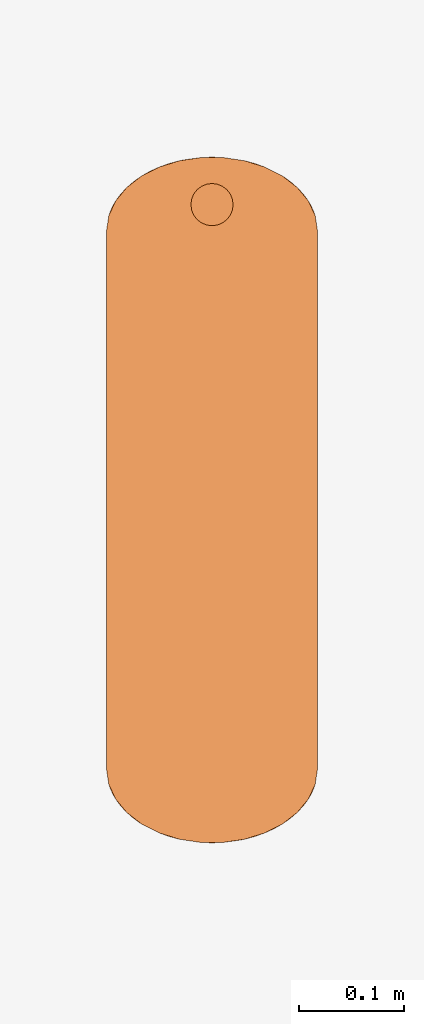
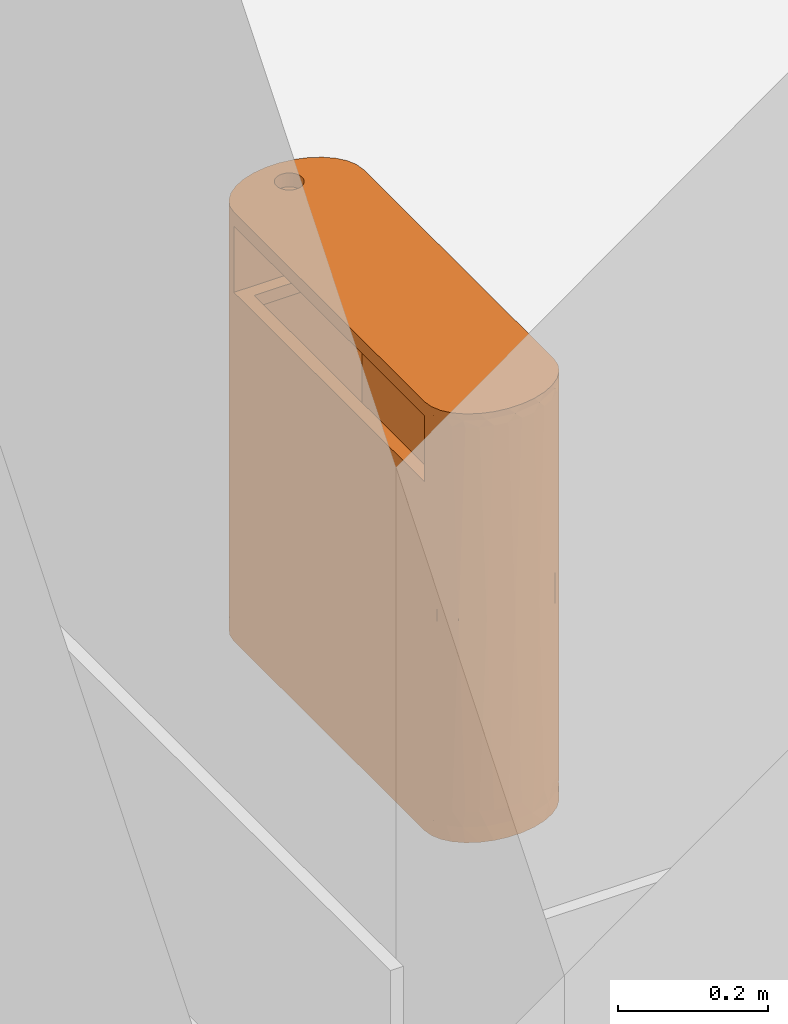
# One storey, part 77 of 77: 1 proxy.
"""IFC2X3 building model written with IfcOpenShell, lengths in millimetres."""

from ifc_helpers import new_model, entity, si_unit, converted_unit, derived_unit, direction, frame, origin, place, context, subcontext, project, spatial, faceted_brep, source, transform, mapped, material, material_list, type_object, type_shapes, element, save


model = new_model("IFC2X3")

# Units and contexts
model_context = context("Model", 3, precision=0.01, world=origin(), true_north=direction((6.12303176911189e-17, 1.0)))
body_context = subcontext(model_context, "Body", "Model", "MODEL_VIEW")
ifc_project = project(units=[si_unit("LENGTHUNIT", "METRE", prefix="MILLI"), si_unit("AREAUNIT", "SQUARE_METRE"), si_unit("VOLUMEUNIT", "CUBIC_METRE"), converted_unit("PLANEANGLEUNIT", "DEGREE", entity("IfcRatioMeasure", 0.0174532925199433), si_unit("PLANEANGLEUNIT", "RADIAN"), dimensions=[0, 0, 0, 0, 0, 0, 0]), si_unit("MASSUNIT", "GRAM", prefix="KILO"), derived_unit("MASSDENSITYUNIT", [(si_unit("MASSUNIT", "GRAM", prefix="KILO"), 1), (si_unit("LENGTHUNIT", "METRE"), -3)]), si_unit("TIMEUNIT", "SECOND"), si_unit("FREQUENCYUNIT", "HERTZ"), si_unit("THERMODYNAMICTEMPERATUREUNIT", "DEGREE_CELSIUS"), derived_unit("THERMALTRANSMITTANCEUNIT", [(si_unit("MASSUNIT", "GRAM", prefix="KILO"), 1), (si_unit("THERMODYNAMICTEMPERATUREUNIT", "KELVIN"), -1), (si_unit("TIMEUNIT", "SECOND"), -3)]), derived_unit("VOLUMETRICFLOWRATEUNIT", [(si_unit("LENGTHUNIT", "METRE"), 3), (si_unit("TIMEUNIT", "SECOND"), -1)]), si_unit("ELECTRICCURRENTUNIT", "AMPERE"), si_unit("ELECTRICVOLTAGEUNIT", "VOLT"), si_unit("POWERUNIT", "WATT"), si_unit("FORCEUNIT", "NEWTON", prefix="KILO"), si_unit("ILLUMINANCEUNIT", "LUX"), si_unit("LUMINOUSFLUXUNIT", "LUMEN"), si_unit("LUMINOUSINTENSITYUNIT", "CANDELA"), derived_unit("USERDEFINED", [(si_unit("MASSUNIT", "GRAM", prefix="KILO"), -1), (si_unit("LENGTHUNIT", "METRE"), -2), (si_unit("TIMEUNIT", "SECOND"), 3), (si_unit("LUMINOUSFLUXUNIT", "LUMEN"), 1)]), derived_unit("LINEARVELOCITYUNIT", [(si_unit("LENGTHUNIT", "METRE"), 1), (si_unit("TIMEUNIT", "SECOND"), -1)]), si_unit("PRESSUREUNIT", "PASCAL"), derived_unit("USERDEFINED", [(si_unit("LENGTHUNIT", "METRE"), -2), (si_unit("MASSUNIT", "GRAM", prefix="KILO"), 1), (si_unit("TIMEUNIT", "SECOND"), -2)])], contexts=[model_context])

# Site, building, storey
site_placement = place(None, origin())
site = spatial("IfcSite", under=ifc_project, at=site_placement, Name="Default", CompositionType="ELEMENT")
building_placement = place(site_placement, origin())
building = spatial("IfcBuilding", under=site, at=building_placement, CompositionType="ELEMENT")
storey_placement = place(building_placement, origin())
storey = spatial("IfcBuildingStorey", under=building, at=storey_placement, Name="1. KORRUS", CompositionType="ELEMENT", Elevation=0.0)

# Proxy
ifc_material_1 = material(Name="Default New Material_must-al-komposiitplaat")
ifc_material_2 = material(Name="roostevaba teras")
ifc_material_list_1 = material_list([ifc_material_1, ifc_material_2])
ifc_material_list_2 = material_list([ifc_material_1, ifc_material_2])
building_element_proxy_type = type_object("IfcBuildingElementProxyType", Name="prygikast_look30", PredefinedType="NOTDEFINED", material=ifc_material_list_2)
shared_shape = source(origin(), body_context, "Body", "Brep", [
    faceted_brep([(580.0, 0.0, 50.0), (580.0, 200.0, 50.0), (70.0, 200.0, 50.0), (70.0, 0.0, 50.0), (3.42604385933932, 130.901699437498, 0.0), (9.37822173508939, 150.0, 0.0), (17.9798622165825, 166.913060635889, 0.0), (28.855032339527, 180.901699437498, 0.0), (41.5284349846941, 191.354545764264, 0.0), (55.4461816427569, 197.814760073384, 0.0), (70.0, 200.0, 0.0), (580.0, 200.0, 0.0), (594.553818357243, 197.814760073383, 0.0), (608.471565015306, 191.354545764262, 0.0), (621.144967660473, 180.901699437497, 0.0), (632.020137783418, 166.913060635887, 0.0), (640.621778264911, 150.0, 0.0), (646.573956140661, 130.901699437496, 0.0), (649.616532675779, 110.452846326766, 0.0), (649.616532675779, 89.5471536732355, 0.0), (646.57395614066, 69.0983005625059, 0.0), (640.62177826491, 50.0, 0.0), (632.020137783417, 33.0869393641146, 0.0), (621.144967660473, 19.0983005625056, 0.0), (608.471565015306, 8.64545423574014, 0.0), (594.553818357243, 2.1852399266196, 0.0), (580.0, 0.0, 0.0), (70.0, 0.0, 0.0), (55.4461816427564, 2.18523992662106, 0.0), (41.5284349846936, 8.64545423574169, 0.0), (28.8550323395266, 19.0983005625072, 0.0), (17.9798622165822, 33.0869393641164, 0.0), (9.37822173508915, 50.0, 0.0), (3.42604385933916, 69.0983005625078, 0.0), (0.383467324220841, 89.5471536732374, 0.0), (0.383467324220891, 110.452846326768, 0.0), (580.0, 200.0, 28.2750393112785), (70.0, 200.0, 28.2750379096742), (70.0, 0.0, 28.2750359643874), (580.0, 0.0, 28.2750379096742), (28.8550323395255, 180.901699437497, 50.0), (41.5284349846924, 191.354545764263, 50.0), (34.9999919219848, 186.602533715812, 25.0000004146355), (55.4461816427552, 197.814760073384, 50.0), (51.8744249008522, 196.589426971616, 26.7961622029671), (19.6473227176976, 169.467477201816, 24.999996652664), (3.42604385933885, 130.901699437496, 50.0), (9.37822173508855, 150.0, 50.0), (6.05181878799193, 140.673666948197, 25.000000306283), (0.383467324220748, 110.452846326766, 50.0), (2.71123768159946, 72.4384745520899, 24.9999996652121), (3.4260438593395, 69.0983005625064, 50.0), (0.383467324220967, 89.5471536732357, 50.0), (28.8550323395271, 19.0983005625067, 50.0), (17.9798622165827, 33.0869393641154, 50.0), (13.3688102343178, 41.221475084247, 25.0000002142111), (0.0, 100.00000102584, 25.0000003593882), (70.0, 200.0, 271.991615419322), (55.4461816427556, 197.814760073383, 677.455837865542), (70.0, 200.0, 677.455837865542), (17.9798622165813, 166.913060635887, 50.0), (34.9999998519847, 13.3974597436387, 25.0000001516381), (51.8744275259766, 3.41057202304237, 26.7961688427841), (55.4461816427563, 2.18523992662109, 50.0), (41.5284349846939, 8.64545423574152, 50.0), (9.37822173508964, 50.0, 50.0), (70.0, 0.0, 455.464243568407), (70.0, 0.0, 677.455837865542), (55.4461816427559, 2.18523992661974, 677.455837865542), (621.144967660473, 19.0983005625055, 50.0), (608.471565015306, 8.64545423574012, 50.0), (615.000008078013, 13.3974662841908, 25.0000004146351), (594.553818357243, 2.1852399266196, 50.0), (598.125575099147, 3.41057302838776, 26.7961622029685), (630.352677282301, 30.5325227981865, 24.9999966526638), (646.57395614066, 69.0983005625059, 50.0), (640.62177826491, 50.0, 50.0), (643.948181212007, 59.3263330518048, 25.0000003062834), (649.616532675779, 89.5471536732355, 50.0), (647.288762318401, 127.561525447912, 24.999999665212), (646.573956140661, 130.901699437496, 50.0), (649.616532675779, 110.452846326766, 50.0), (621.144967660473, 180.901699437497, 50.0), (632.020137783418, 166.913060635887, 50.0), (636.631189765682, 158.778524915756, 25.0000002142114), (650.0, 99.9999989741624, 25.0000003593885), (580.0, 0.0, 271.991615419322), (594.553818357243, 2.18523992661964, 677.455837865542), (580.0, 0.0, 677.455837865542), (632.020137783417, 33.0869393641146, 50.0), (615.0, 186.602540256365, 25.0000001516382), (598.125572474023, 196.589427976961, 26.7961688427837), (594.553818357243, 197.814760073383, 50.0), (608.471565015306, 191.354545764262, 50.0), (640.621778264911, 150.0, 50.0), (580.0, 200.0, 455.464243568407), (580.0, 200.0, 677.455837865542), (594.553818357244, 197.814760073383, 677.455837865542), (608.471565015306, 8.6454542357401, 677.455837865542), (621.144967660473, 19.0983005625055, 677.455837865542), (632.020137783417, 33.0869393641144, 677.455837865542), (640.62177826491, 50.0, 677.455837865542), (646.57395614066, 69.0983005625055, 677.455837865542), (649.616532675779, 89.547153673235, 677.455837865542), (649.616532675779, 110.452846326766, 677.455837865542), (646.573956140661, 130.901699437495, 677.455837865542), (640.621778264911, 150.0, 677.455837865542), (632.020137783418, 166.913060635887, 677.455837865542), (621.144967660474, 180.901699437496, 677.455837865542), (608.471565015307, 191.354545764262, 677.455837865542), (41.5284349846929, 191.354545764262, 677.455837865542), (28.8550323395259, 180.901699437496, 677.455837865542), (17.9798622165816, 166.913060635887, 677.455837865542), (9.37822173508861, 150.0, 677.455837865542), (3.42604385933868, 130.901699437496, 677.455837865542), (0.383467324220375, 110.452846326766, 677.455837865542), (0.383467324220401, 89.5471536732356, 677.455837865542), (3.42604385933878, 69.0983005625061, 677.455837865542), (9.37822173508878, 50.0, 677.455837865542), (17.9798622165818, 33.0869393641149, 677.455837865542), (28.8550323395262, 19.0983005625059, 677.455837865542), (41.5284349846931, 8.64545423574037, 677.455837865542), (643.948182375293, 59.3263367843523, 363.727920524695), (626.839143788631, 25.6855191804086, 363.727924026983), (603.549200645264, 5.82869334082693, 363.727949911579), (643.948181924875, 140.673664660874, 363.727919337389), (650.0, 100.000000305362, 363.727918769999), (626.839142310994, 174.314482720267, 363.727919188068), (603.549198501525, 194.171307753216, 363.727918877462), (6.05181762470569, 140.673663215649, 363.727920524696), (23.1608562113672, 174.314480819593, 363.727924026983), (46.4507993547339, 194.171306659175, 363.727949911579), (6.05181807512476, 59.3263353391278, 363.72791933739), (0.0, 99.9999996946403, 363.727918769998), (23.1608576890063, 25.6855172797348, 363.727919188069), (46.4508014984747, 5.82869224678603, 363.727918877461)], [[[0, 1, 2, 3]], [[4, 5, 6, 7, 8, 9, 10, 11, 12, 13, 14, 15, 16, 17, 18, 19, 20, 21, 22, 23, 24, 25, 26, 27, 28, 29, 30, 31, 32, 33, 34, 35]], [[2, 1, 36, 11, 10, 37]], [[3, 38, 27, 26, 39, 0]], [[40, 41, 42]], [[43, 37, 44]], [[44, 37, 9]], [[42, 45, 40]], [[7, 42, 8]], [[46, 47, 48]], [[49, 46, 48]], [[50, 51, 52]], [[48, 47, 45]], [[53, 54, 55]], [[49, 48, 56]], [[44, 42, 41]], [[37, 10, 9]], [[37, 43, 57, 2]], [[57, 58, 59]], [[4, 35, 56]], [[60, 40, 45]], [[8, 44, 9]], [[33, 32, 50]], [[5, 48, 45]], [[31, 30, 61]], [[4, 48, 5]], [[4, 56, 48]], [[6, 5, 45]], [[42, 7, 45]], [[62, 61, 29]], [[56, 52, 49]], [[50, 52, 56]], [[62, 63, 64]], [[55, 54, 65]], [[27, 38, 28]], [[3, 66, 63, 38]], [[66, 67, 68]], [[8, 42, 44]], [[65, 50, 55]], [[61, 64, 53]], [[61, 62, 64]], [[6, 45, 7]], [[33, 50, 34]], [[62, 38, 63]], [[61, 53, 55]], [[38, 62, 28]], [[56, 34, 50]], [[65, 51, 50]], [[32, 55, 50]], [[31, 55, 32]], [[47, 60, 45]], [[61, 55, 31]], [[61, 30, 29]], [[43, 44, 41]], [[28, 62, 29]], [[56, 35, 34]], [[69, 70, 71]], [[72, 39, 73]], [[73, 39, 25]], [[71, 74, 69]], [[23, 71, 24]], [[75, 76, 77]], [[78, 75, 77]], [[79, 80, 81]], [[77, 76, 74]], [[82, 83, 84]], [[78, 77, 85]], [[73, 71, 70]], [[39, 26, 25]], [[39, 72, 86, 0]], [[86, 87, 88]], [[20, 19, 85]], [[89, 69, 74]], [[24, 73, 25]], [[17, 16, 79]], [[21, 77, 74]], [[15, 14, 90]], [[20, 77, 21]], [[20, 85, 77]], [[22, 21, 74]], [[71, 23, 74]], [[91, 90, 13]], [[85, 81, 78]], [[79, 81, 85]], [[91, 92, 93]], [[84, 83, 94]], [[11, 36, 12]], [[1, 95, 92, 36]], [[95, 96, 97]], [[24, 71, 73]], [[94, 79, 84]], [[90, 93, 82]], [[90, 91, 93]], [[22, 74, 23]], [[17, 79, 18]], [[91, 36, 92]], [[90, 82, 84]], [[36, 91, 12]], [[85, 18, 79]], [[94, 80, 79]], [[16, 84, 79]], [[15, 84, 16]], [[76, 89, 74]], [[90, 84, 15]], [[90, 14, 13]], [[72, 73, 70]], [[12, 91, 13]], [[85, 19, 18]], [[97, 96, 88, 87, 98, 99, 100, 101, 102, 103, 104, 105, 106, 107, 108, 109]], [[59, 58, 110, 111, 112, 113, 114, 115, 116, 117, 118, 119, 120, 121, 68, 67]], [[88, 96, 95, 1, 0, 86]], [[75, 122, 76]], [[89, 123, 69]], [[99, 124, 123]], [[123, 124, 69]], [[124, 72, 70]], [[122, 102, 101]], [[123, 122, 101]], [[125, 105, 104]], [[123, 100, 99]], [[94, 125, 80]], [[126, 103, 122]], [[72, 124, 86]], [[126, 104, 103]], [[101, 100, 123]], [[103, 102, 122]], [[124, 98, 87]], [[107, 106, 125]], [[70, 69, 124]], [[86, 124, 87]], [[76, 122, 123]], [[123, 89, 76]], [[82, 127, 83]], [[78, 122, 75]], [[126, 122, 78]], [[106, 105, 125]], [[104, 126, 125]], [[125, 127, 107]], [[95, 97, 128]], [[128, 108, 127]], [[108, 107, 127]], [[128, 93, 92]], [[95, 128, 92]], [[81, 80, 126]], [[126, 80, 125]], [[83, 125, 94]], [[82, 93, 128]], [[127, 125, 83]], [[128, 109, 108]], [[82, 128, 127]], [[97, 109, 128]], [[126, 78, 81]], [[99, 98, 124]], [[59, 67, 66, 3, 2, 57]], [[46, 129, 47]], [[60, 130, 40]], [[111, 131, 130]], [[130, 131, 40]], [[131, 43, 41]], [[129, 114, 113]], [[130, 129, 113]], [[132, 117, 116]], [[130, 112, 111]], [[65, 132, 51]], [[133, 115, 129]], [[43, 131, 57]], [[133, 116, 115]], [[113, 112, 130]], [[115, 114, 129]], [[131, 110, 58]], [[119, 118, 132]], [[41, 40, 131]], [[57, 131, 58]], [[47, 129, 130]], [[130, 60, 47]], [[53, 134, 54]], [[49, 129, 46]], [[133, 129, 49]], [[118, 117, 132]], [[116, 133, 132]], [[132, 134, 119]], [[66, 68, 135]], [[135, 120, 134]], [[120, 119, 134]], [[135, 64, 63]], [[66, 135, 63]], [[52, 51, 133]], [[133, 51, 132]], [[54, 132, 65]], [[53, 64, 135]], [[134, 132, 54]], [[135, 121, 120]], [[53, 135, 134]], [[68, 121, 135]], [[133, 49, 52]], [[111, 110, 131]]]),
    faceted_brep([(580.0, 200.0, 569.271886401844), (70.0, 200.0, 569.271886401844), (70.0, 0.0, 569.271886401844), (580.0, 0.0, 569.271886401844), (560.0, 180.0, 569.271886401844), (560.0, 20.0, 569.271886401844), (90.0, 20.0, 569.271886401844), (90.0, 180.0, 569.271886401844), (580.0, 200.0, 549.271886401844), (580.0, 0.0, 549.271886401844), (70.0, 0.0, 549.271886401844), (70.0, 200.0, 549.271886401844), (560.0, 180.0, 549.271886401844), (90.0, 180.0, 549.271886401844), (90.0, 20.0, 549.271886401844), (560.0, 20.0, 549.271886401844)], [[[0, 1, 2, 3], [4, 5, 6, 7]], [[8, 9, 10, 11], [12, 13, 14, 15]], [[1, 0, 8, 11]], [[2, 1, 11, 10]], [[3, 2, 10, 9]], [[0, 3, 9, 8]], [[5, 4, 12, 15]], [[6, 5, 15, 14]], [[7, 6, 14, 13]], [[4, 7, 13, 12]]]),
    faceted_brep([(619.142135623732, 114.142135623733, 700.0), (622.320508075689, 110.0, 700.0), (646.573956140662, 130.901699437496, 700.0), (615.0, 117.320508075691, 700.0), (649.61653267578, 110.452846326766, 700.0), (624.318516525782, 105.176380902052, 700.0), (625.0, 100.0, 700.0), (649.61653267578, 89.5471536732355, 700.0), (624.318516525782, 94.8236190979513, 700.0), (622.320508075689, 90.0, 700.0), (646.573956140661, 69.0983005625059, 700.0), (619.142135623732, 85.8578643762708, 700.0), (615.0, 82.679491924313, 700.0), (640.621778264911, 50.0, 700.0), (610.176380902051, 80.6814834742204, 700.0), (632.020137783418, 33.0869393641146, 700.0), (605.0, 80.0, 700.0), (621.144967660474, 19.0983005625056, 700.0), (599.82361909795, 80.6814834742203, 700.0), (608.471565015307, 8.64545423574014, 700.0), (594.553818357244, 2.1852399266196, 700.0), (595.0, 82.6794919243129, 700.0), (580.0, 0.0, 700.0), (590.85786437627, 85.8578643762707, 700.0), (587.679491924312, 90.0, 700.0), (585.681483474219, 94.8236190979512, 700.0), (70.0, 0.0, 700.0), (585.0, 100.0, 700.0), (70.0, 200.0, 700.0), (585.681483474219, 105.176380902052, 700.0), (580.0, 200.0, 700.0), (587.679491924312, 110.0, 700.0), (590.85786437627, 114.142135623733, 700.0), (595.0, 117.32050807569, 700.0), (594.553818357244, 197.814760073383, 700.0), (599.82361909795, 119.318516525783, 700.0), (608.471565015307, 191.354545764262, 700.0), (621.144967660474, 180.901699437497, 700.0), (605.0, 120.0, 700.0), (632.020137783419, 166.913060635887, 700.0), (610.176380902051, 119.318516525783, 700.0), (640.621778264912, 150.0, 700.0), (0.383467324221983, 110.452846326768, 700.0), (3.42604385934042, 130.901699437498, 700.0), (9.37822173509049, 150.0, 700.0), (17.9798622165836, 166.913060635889, 700.0), (28.8550323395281, 180.901699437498, 700.0), (41.5284349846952, 191.354545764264, 700.0), (55.446181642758, 197.814760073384, 700.0), (0.383467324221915, 89.5471536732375, 700.0), (3.42604385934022, 69.0983005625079, 700.0), (9.37822173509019, 50.0, 700.0), (17.9798622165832, 33.0869393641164, 700.0), (28.8550323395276, 19.0983005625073, 700.0), (41.5284349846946, 8.64545423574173, 700.0), (55.4461816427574, 2.18523992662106, 700.0), (70.0, 200.0, 677.455837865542), (28.8550323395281, 180.901699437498, 677.455837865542), (41.5284349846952, 191.354545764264, 677.455837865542), (17.9798622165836, 166.913060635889, 677.455837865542), (9.37822173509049, 150.0, 677.455837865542), (3.42604385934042, 130.901699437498, 677.455837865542), (0.383467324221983, 110.452846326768, 677.455837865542), (55.446181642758, 197.814760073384, 677.455837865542), (70.0, 0.0, 677.455837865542), (585.0, 100.0, 677.455837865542), (585.681483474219, 105.176380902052, 677.455837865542), (580.0, 200.0, 677.455837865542), (587.679491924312, 110.0, 677.455837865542), (590.85786437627, 114.142135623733, 677.455837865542), (595.0, 117.32050807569, 677.455837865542), (594.553818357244, 197.814760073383, 677.455837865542), (599.82361909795, 119.318516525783, 677.455837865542), (608.471565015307, 191.354545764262, 677.455837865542), (621.144967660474, 180.901699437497, 677.455837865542), (605.0, 120.0, 677.455837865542), (632.020137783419, 166.913060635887, 677.455837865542), (610.176380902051, 119.318516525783, 677.455837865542), (640.621778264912, 150.0, 677.455837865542), (615.0, 117.320508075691, 677.455837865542), (646.573956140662, 130.901699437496, 677.455837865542), (619.142135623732, 114.142135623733, 677.455837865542), (622.320508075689, 110.0, 677.455837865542), (649.61653267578, 110.452846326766, 677.455837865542), (624.318516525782, 105.176380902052, 677.455837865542), (625.0, 100.0, 677.455837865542), (649.61653267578, 89.5471536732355, 677.455837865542), (624.318516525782, 94.8236190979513, 677.455837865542), (622.320508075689, 90.0, 677.455837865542), (646.573956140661, 69.0983005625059, 677.455837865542), (619.142135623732, 85.8578643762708, 677.455837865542), (615.0, 82.679491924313, 677.455837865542), (640.621778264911, 50.0, 677.455837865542), (610.176380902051, 80.6814834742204, 677.455837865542), (632.020137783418, 33.0869393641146, 677.455837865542), (605.0, 80.0, 677.455837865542), (621.144967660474, 19.0983005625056, 677.455837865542), (599.82361909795, 80.6814834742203, 677.455837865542), (608.471565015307, 8.64545423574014, 677.455837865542), (594.553818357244, 2.1852399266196, 677.455837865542), (595.0, 82.6794919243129, 677.455837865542), (580.0, 0.0, 677.455837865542), (585.681483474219, 94.8236190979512, 677.455837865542), (587.679491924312, 90.0, 677.455837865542), (590.85786437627, 85.8578643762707, 677.455837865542), (0.383467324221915, 89.5471536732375, 677.455837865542), (3.42604385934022, 69.0983005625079, 677.455837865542), (9.37822173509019, 50.0, 677.455837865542), (17.9798622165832, 33.0869393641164, 677.455837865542), (28.8550323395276, 19.0983005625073, 677.455837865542), (41.5284349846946, 8.64545423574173, 677.455837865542), (55.4461816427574, 2.18523992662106, 677.455837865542), (580.0, 200.0, 688.727914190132), (70.0, 200.0, 686.016342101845), (70.0, 0.0, 688.727923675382), (580.0, 0.0, 686.016342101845), (34.9999960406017, 186.60253711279, 688.727916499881), (52.0190407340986, 196.644573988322, 688.016713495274), (19.6473283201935, 169.46748548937, 688.727918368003), (0.0, 99.9999997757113, 688.727918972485), (6.05181780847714, 140.673663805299, 688.72791896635), (23.1608575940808, 25.6855174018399, 688.72791895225), (6.05181799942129, 59.3263355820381, 688.727918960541), (48.3688104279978, 4.89434835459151, 688.727918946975), (615.0000039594, 13.3974628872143, 688.727916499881), (597.980959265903, 3.35542601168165, 688.016713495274), (630.352671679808, 30.5325145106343, 688.727918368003), (650.0, 100.000000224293, 688.727918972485), (643.948182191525, 59.326336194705, 688.72791896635), (626.839142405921, 174.314482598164, 688.72791895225), (643.94818200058, 140.673664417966, 688.727918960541), (601.631189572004, 195.105651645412, 688.727918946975)], [[[0, 1, 2]], [[0, 2, 3]], [[4, 2, 1]], [[1, 5, 4]], [[6, 4, 5]], [[4, 6, 7]], [[8, 7, 6]], [[7, 8, 9]], [[7, 9, 10]], [[9, 11, 10]], [[12, 10, 11]], [[13, 10, 12]], [[14, 13, 12]], [[14, 15, 13]], [[15, 14, 16]], [[16, 17, 15]], [[16, 18, 17]], [[18, 19, 17]], [[20, 19, 18]], [[18, 21, 20]], [[21, 22, 20]], [[21, 23, 22]], [[22, 23, 24]], [[24, 25, 22]], [[25, 26, 22]], [[25, 27, 26]], [[28, 26, 27]], [[29, 28, 27]], [[29, 30, 28]], [[29, 31, 30]], [[32, 30, 31]], [[32, 33, 30]], [[33, 34, 30]], [[34, 33, 35]], [[35, 36, 34]], [[35, 37, 36]], [[38, 37, 35]], [[37, 38, 39]], [[38, 40, 39]], [[41, 39, 40]], [[41, 40, 3]], [[41, 3, 2]], [[26, 28, 42]], [[28, 43, 42]], [[43, 28, 44]], [[45, 44, 28]], [[46, 45, 28]], [[47, 46, 28]], [[28, 48, 47]], [[42, 49, 26]], [[50, 26, 49]], [[26, 50, 51]], [[51, 52, 26]], [[52, 53, 26]], [[54, 26, 53]], [[55, 26, 54]], [[56, 57, 58]], [[59, 57, 56]], [[60, 59, 56]], [[61, 60, 56]], [[62, 61, 56]], [[56, 58, 63]], [[62, 56, 64]], [[56, 65, 64]], [[65, 56, 66]], [[66, 56, 67]], [[68, 66, 67]], [[68, 67, 69]], [[70, 69, 67]], [[70, 67, 71]], [[71, 72, 70]], [[72, 71, 73]], [[74, 72, 73]], [[72, 74, 75]], [[74, 76, 75]], [[77, 75, 76]], [[78, 77, 76]], [[79, 77, 78]], [[78, 80, 79]], [[80, 81, 79]], [[81, 80, 82]], [[82, 80, 83]], [[84, 82, 83]], [[83, 85, 84]], [[85, 83, 86]], [[86, 87, 85]], [[88, 87, 86]], [[88, 86, 89]], [[88, 89, 90]], [[91, 90, 89]], [[89, 92, 91]], [[92, 93, 91]], [[93, 92, 94]], [[93, 94, 95]], [[95, 94, 96]], [[97, 95, 96]], [[98, 97, 96]], [[98, 99, 97]], [[97, 99, 100]], [[101, 100, 99]], [[64, 102, 101]], [[102, 103, 101]], [[104, 100, 101]], [[103, 104, 101]], [[65, 102, 64]], [[64, 105, 62]], [[106, 105, 64]], [[106, 64, 107]], [[108, 107, 64]], [[64, 109, 108]], [[64, 110, 109]], [[64, 111, 110]], [[28, 30, 112, 67, 56, 113]], [[26, 114, 64, 101, 115, 22]], [[116, 47, 117]], [[59, 60, 118]], [[46, 47, 116]], [[57, 116, 58]], [[61, 62, 119]], [[117, 113, 63]], [[120, 43, 44]], [[107, 108, 121]], [[118, 120, 44]], [[105, 106, 122]], [[46, 116, 118]], [[110, 123, 109]], [[42, 120, 119]], [[45, 46, 118]], [[63, 58, 117]], [[42, 43, 120]], [[58, 116, 117]], [[28, 117, 48]], [[113, 56, 63]], [[50, 49, 119]], [[60, 120, 118]], [[64, 114, 111]], [[114, 26, 55]], [[57, 118, 116]], [[60, 61, 120]], [[52, 51, 122]], [[119, 120, 61]], [[121, 54, 53]], [[119, 49, 42]], [[51, 50, 122]], [[50, 119, 122]], [[52, 122, 121]], [[123, 55, 54]], [[121, 123, 54]], [[53, 52, 121]], [[48, 117, 47]], [[119, 105, 122]], [[59, 118, 57]], [[106, 107, 122]], [[107, 121, 122]], [[44, 45, 118]], [[121, 108, 109]], [[109, 123, 121]], [[111, 123, 110]], [[111, 114, 123]], [[123, 114, 55]], [[119, 62, 105]], [[113, 117, 28]], [[124, 19, 125]], [[94, 92, 126]], [[17, 19, 124]], [[96, 124, 98]], [[89, 86, 127]], [[125, 115, 99]], [[128, 10, 13]], [[78, 76, 129]], [[126, 128, 13]], [[83, 80, 130]], [[17, 124, 126]], [[73, 131, 74]], [[7, 128, 127]], [[15, 17, 126]], [[99, 98, 125]], [[7, 10, 128]], [[98, 124, 125]], [[22, 125, 20]], [[115, 101, 99]], [[2, 4, 127]], [[92, 128, 126]], [[67, 112, 71]], [[112, 30, 34]], [[96, 126, 124]], [[92, 89, 128]], [[39, 41, 130]], [[127, 128, 89]], [[129, 36, 37]], [[127, 4, 7]], [[41, 2, 130]], [[2, 127, 130]], [[39, 130, 129]], [[131, 34, 36]], [[129, 131, 36]], [[37, 39, 129]], [[20, 125, 19]], [[127, 83, 130]], [[94, 126, 96]], [[80, 78, 130]], [[78, 129, 130]], [[13, 15, 126]], [[129, 76, 74]], [[74, 131, 129]], [[71, 131, 73]], [[71, 112, 131]], [[131, 112, 34]], [[127, 86, 83]], [[115, 125, 22]], [[27, 65, 66, 29]], [[29, 66, 68, 31]], [[33, 32, 69, 70]], [[68, 69, 32, 31]], [[35, 33, 70, 72]], [[72, 75, 38, 35]], [[79, 81, 0, 3]], [[77, 79, 3, 40]], [[85, 6, 5, 84]], [[84, 5, 1, 82]], [[81, 82, 1, 0]], [[77, 40, 38, 75]], [[6, 85, 87, 8]], [[8, 87, 88, 9]], [[12, 11, 90, 91]], [[88, 90, 11, 9]], [[14, 12, 91, 93]], [[93, 95, 16, 14]], [[23, 21, 100, 104]], [[100, 21, 18, 97]], [[25, 24, 103, 102]], [[23, 104, 103, 24]], [[25, 102, 65, 27]], [[95, 97, 18, 16]]]),
    faceted_brep([(70.0, 200.0, 549.271886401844), (70.0, 198.0, 549.271886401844), (580.0, 198.0, 549.271886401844), (580.0, 200.0, 549.271886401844), (70.0, 200.0, 50.0), (70.0, 198.0, 50.0), (580.0, 198.0, 50.0), (580.0, 200.0, 50.0)], [[[0, 1, 2, 3]], [[1, 0, 4, 5]], [[2, 1, 5, 6]], [[3, 2, 6, 7]], [[0, 3, 7, 4]], [[4, 7, 6, 5]]]),
    faceted_brep([(70.0, 2.0, 50.0), (580.0, 2.0, 50.0), (580.0, 0.0, 50.0), (70.0, 0.0, 50.0), (70.0, 0.0, 549.271886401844), (70.0, 2.0, 549.271886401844), (580.0, 0.0, 549.271886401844), (580.0, 2.0, 549.271886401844)], [[[0, 1, 2, 3]], [[4, 5, 0, 3]], [[6, 4, 3, 2]], [[7, 6, 2, 1]], [[5, 7, 1, 0]], [[5, 4, 6, 7]]]),
])
type_shapes(building_element_proxy_type, [shared_shape])
proxy_placement = place(storey_placement, frame((10049.9959583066, 22150.0648177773, -24.4216191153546), z_axis=(0.0, 0.0, 1.0), x_axis=(4.04143640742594e-05, 1.0, 0.0)))
element("IfcBuildingElementProxy", 1, at=proxy_placement, inside=storey, type_object=building_element_proxy_type, material=ifc_material_list_1, Name="prygikast_look30:prygikast_look30", ObjectType="prygikast_look30", context=body_context, shape_type="MappedRepresentation", body=[
    mapped(shared_shape, transform((0.0, 0.0, 0.0), scale=1.0)),
])

save(model, "model.ifc")
